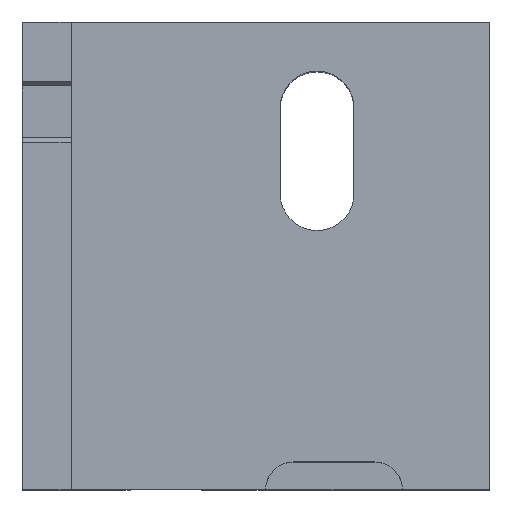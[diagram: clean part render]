
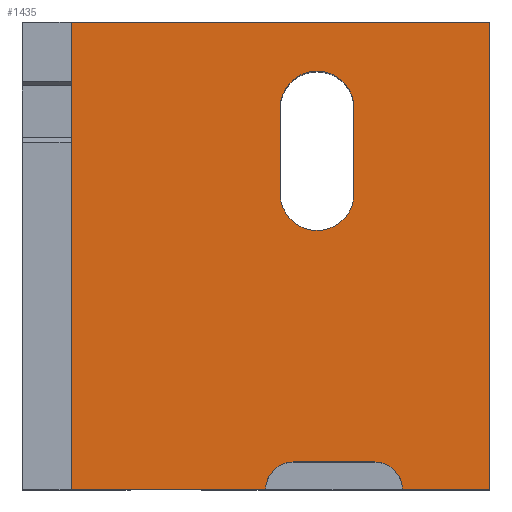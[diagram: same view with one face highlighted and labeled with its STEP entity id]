
A CAD part, top view. The second image highlights one B-rep face of the part: STEP entity #1435.
In plain terms, the highlighted planar face has unit normal (0, 0, 1).
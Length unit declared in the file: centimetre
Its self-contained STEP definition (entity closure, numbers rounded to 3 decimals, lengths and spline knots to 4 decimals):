
#21 = EDGE_CURVE ( 'NONE', #1128, #125, #382, .T. ) ;
#31 = VECTOR ( 'NONE', #1588, 100. ) ;
#41 = DIRECTION ( 'NONE',  ( 0., 0., 1. ) ) ;
#72 = AXIS2_PLACEMENT_3D ( 'NONE', #596, #733, #1646 ) ;
#76 = CARTESIAN_POINT ( 'NONE',  ( 813.1459, 0., 1000. ) ) ;
#78 = ORIENTED_EDGE ( 'NONE', *, *, #239, .T. ) ;
#88 = VERTEX_POINT ( 'NONE', #355 ) ;
#90 = CARTESIAN_POINT ( 'NONE',  ( 709.6403, 632.9223, 1000. ) ) ;
#91 = EDGE_CURVE ( 'NONE', #125, #217, #1195, .T. ) ;
#105 = CARTESIAN_POINT ( 'NONE',  ( 551.6861, 815.883, 1000. ) ) ;
#116 = VERTEX_POINT ( 'NONE', #631 ) ;
#117 = EDGE_LOOP ( 'NONE', ( #688, #78, #1580, #1375 ) ) ;
#125 = VERTEX_POINT ( 'NONE', #90 ) ;
#142 = CARTESIAN_POINT ( 'NONE',  ( 754.4644, 58.6816, 1000. ) ) ;
#149 = LINE ( 'NONE', #387, #441 ) ;
#151 = CARTESIAN_POINT ( 'NONE',  ( 0., 0., 1000. ) ) ;
#152 = VECTOR ( 'NONE', #1099, 100. ) ;
#153 = VECTOR ( 'NONE', #909, 100. ) ;
#191 = CARTESIAN_POINT ( 'NONE',  ( 579.352, 0., 1000. ) ) ;
#196 = CARTESIAN_POINT ( 'NONE',  ( 579.352, 58.6816, 1000. ) ) ;
#210 = VERTEX_POINT ( 'NONE', #1036 ) ;
#217 = VERTEX_POINT ( 'NONE', #914 ) ;
#239 = EDGE_CURVE ( 'NONE', #217, #945, #149, .T. ) ;
#254 = EDGE_CURVE ( 'NONE', #1355, #116, #1283, .T. ) ;
#263 = CARTESIAN_POINT ( 'NONE',  ( 630.6632, 815.883, 1000. ) ) ;
#266 = CARTESIAN_POINT ( 'NONE',  ( 0., 0., 1000. ) ) ;
#274 = CARTESIAN_POINT ( 'NONE',  ( 709.6403, 815.883, 1000. ) ) ;
#277 = DIRECTION ( 'NONE',  ( 0., 0., -1. ) ) ;
#301 = DIRECTION ( 'NONE',  ( 0., -1., 0. ) ) ;
#310 = EDGE_CURVE ( 'NONE', #116, #88, #943, .T. ) ;
#351 = AXIS2_PLACEMENT_3D ( 'NONE', #702, #41, #552 ) ;
#355 = CARTESIAN_POINT ( 'NONE',  ( 104.65, 0., 1000. ) ) ;
#382 = LINE ( 'NONE', #274, #153 ) ;
#387 = CARTESIAN_POINT ( 'NONE',  ( 551.6861, 632.9223, 1000. ) ) ;
#397 = DIRECTION ( 'NONE',  ( 1., 0., 0. ) ) ;
#402 = VERTEX_POINT ( 'NONE', #196 ) ;
#411 = EDGE_CURVE ( 'NONE', #574, #402, #1075, .T. ) ;
#441 = VECTOR ( 'NONE', #1172, 100. ) ;
#449 = DIRECTION ( 'NONE',  ( 0., 0., 1. ) ) ;
#481 = ORIENTED_EDGE ( 'NONE', *, *, #703, .T. ) ;
#515 = DIRECTION ( 'NONE',  ( -1., 0., 0. ) ) ;
#539 = DIRECTION ( 'NONE',  ( 1., 0., 0. ) ) ;
#545 = DIRECTION ( 'NONE',  ( 1., 0., 0. ) ) ;
#552 = DIRECTION ( 'NONE',  ( 1., 0., 0. ) ) ;
#554 = CARTESIAN_POINT ( 'NONE',  ( 1000., 1000., 1000. ) ) ;
#561 = ORIENTED_EDGE ( 'NONE', *, *, #310, .T. ) ;
#574 = VERTEX_POINT ( 'NONE', #142 ) ;
#596 = CARTESIAN_POINT ( 'NONE',  ( 630.6632, 632.9223, 1000. ) ) ;
#617 = AXIS2_PLACEMENT_3D ( 'NONE', #263, #277, #791 ) ;
#629 = EDGE_CURVE ( 'NONE', #945, #1128, #1397, .T. ) ;
#631 = CARTESIAN_POINT ( 'NONE',  ( 104.65, 1000., 1000. ) ) ;
#640 = EDGE_CURVE ( 'NONE', #88, #1138, #1304, .T. ) ;
#654 = CARTESIAN_POINT ( 'NONE',  ( 1000., 1000., 1000. ) ) ;
#661 = DIRECTION ( 'NONE',  ( 0., 0., 1. ) ) ;
#670 = CARTESIAN_POINT ( 'NONE',  ( 0., 0., 1000. ) ) ;
#688 = ORIENTED_EDGE ( 'NONE', *, *, #91, .T. ) ;
#702 = CARTESIAN_POINT ( 'NONE',  ( 754.4644, 0., 1000. ) ) ;
#703 = EDGE_CURVE ( 'NONE', #210, #1355, #1089, .T. ) ;
#716 = EDGE_LOOP ( 'NONE', ( #561, #997, #883, #1006, #1573, #1338, #481, #1660 ) ) ;
#733 = DIRECTION ( 'NONE',  ( 0., 0., -1. ) ) ;
#757 = AXIS2_PLACEMENT_3D ( 'NONE', #151, #661, #1188 ) ;
#791 = DIRECTION ( 'NONE',  ( -1., 0., 0. ) ) ;
#822 = CARTESIAN_POINT ( 'NONE',  ( 104.65, 1000., 1000. ) ) ;
#883 = ORIENTED_EDGE ( 'NONE', *, *, #1597, .F. ) ;
#906 = VECTOR ( 'NONE', #515, 100. ) ;
#909 = DIRECTION ( 'NONE',  ( 0., -1., 0. ) ) ;
#914 = CARTESIAN_POINT ( 'NONE',  ( 551.6861, 632.9223, 1000. ) ) ;
#943 = LINE ( 'NONE', #822, #1658 ) ;
#945 = VERTEX_POINT ( 'NONE', #105 ) ;
#997 = ORIENTED_EDGE ( 'NONE', *, *, #640, .T. ) ;
#1006 = ORIENTED_EDGE ( 'NONE', *, *, #411, .F. ) ;
#1036 = CARTESIAN_POINT ( 'NONE',  ( 1000., 0., 1000. ) ) ;
#1047 = VECTOR ( 'NONE', #397, 100. ) ;
#1075 = LINE ( 'NONE', #1082, #152 ) ;
#1082 = CARTESIAN_POINT ( 'NONE',  ( 754.4644, 58.6816, 1000. ) ) ;
#1089 = LINE ( 'NONE', #554, #31 ) ;
#1099 = DIRECTION ( 'NONE',  ( -1., 0., 0. ) ) ;
#1128 = VERTEX_POINT ( 'NONE', #1209 ) ;
#1138 = VERTEX_POINT ( 'NONE', #1622 ) ;
#1172 = DIRECTION ( 'NONE',  ( 0., 1., 0. ) ) ;
#1188 = DIRECTION ( 'NONE',  ( 1., 0., 0. ) ) ;
#1195 = CIRCLE ( 'NONE', #72, 78.9771 ) ;
#1209 = CARTESIAN_POINT ( 'NONE',  ( 709.6403, 815.883, 1000. ) ) ;
#1283 = LINE ( 'NONE', #1290, #906 ) ;
#1290 = CARTESIAN_POINT ( 'NONE',  ( 0., 1000., 1000. ) ) ;
#1295 = FACE_BOUND ( 'NONE', #117, .T. ) ;
#1304 = LINE ( 'NONE', #670, #1533 ) ;
#1309 = LINE ( 'NONE', #266, #1047 ) ;
#1338 = ORIENTED_EDGE ( 'NONE', *, *, #1416, .T. ) ;
#1355 = VERTEX_POINT ( 'NONE', #654 ) ;
#1375 = ORIENTED_EDGE ( 'NONE', *, *, #21, .T. ) ;
#1397 = CIRCLE ( 'NONE', #617, 78.9771 ) ;
#1402 = AXIS2_PLACEMENT_3D ( 'NONE', #191, #449, #545 ) ;
#1416 = EDGE_CURVE ( 'NONE', #1598, #210, #1309, .T. ) ;
#1431 = PLANE ( 'NONE',  #757 ) ;
#1432 = CIRCLE ( 'NONE', #351, 58.6816 ) ;
#1435 = ADVANCED_FACE ( 'NONE', ( #1568, #1295 ), #1431, .T. ) ;
#1533 = VECTOR ( 'NONE', #539, 100. ) ;
#1535 = CIRCLE ( 'NONE', #1402, 58.6816 ) ;
#1568 = FACE_OUTER_BOUND ( 'NONE', #716, .T. ) ;
#1573 = ORIENTED_EDGE ( 'NONE', *, *, #1608, .F. ) ;
#1580 = ORIENTED_EDGE ( 'NONE', *, *, #629, .T. ) ;
#1588 = DIRECTION ( 'NONE',  ( 0., 1., 0. ) ) ;
#1597 = EDGE_CURVE ( 'NONE', #402, #1138, #1535, .T. ) ;
#1598 = VERTEX_POINT ( 'NONE', #76 ) ;
#1608 = EDGE_CURVE ( 'NONE', #1598, #574, #1432, .T. ) ;
#1622 = CARTESIAN_POINT ( 'NONE',  ( 520.6705, 0., 1000. ) ) ;
#1646 = DIRECTION ( 'NONE',  ( -1., 0., 0. ) ) ;
#1658 = VECTOR ( 'NONE', #301, 100. ) ;
#1660 = ORIENTED_EDGE ( 'NONE', *, *, #254, .T. ) ;
